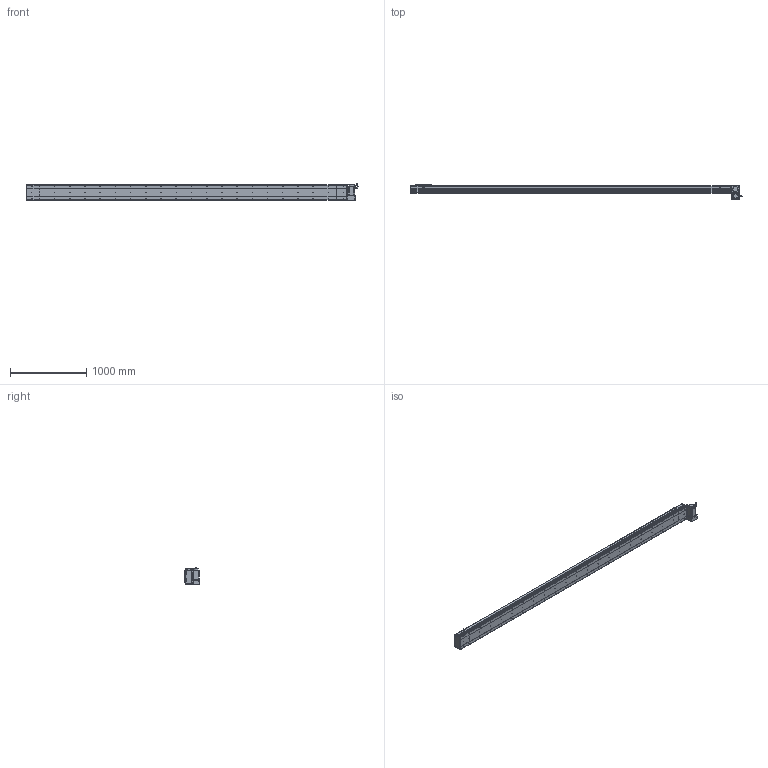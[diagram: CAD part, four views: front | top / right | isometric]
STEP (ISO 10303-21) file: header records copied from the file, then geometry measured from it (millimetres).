
FILE_DESCRIPTION (( 'STEP AP214' ), '1' );
FILE_NAME ('D20 CBH RU S3900.STEP', '2010-06-30T11:13:43', ( 'Conseil Régional Haute-Normandie' ), ( 'Conseil Régional Haute-Normandie' ), 'SwSTEP 2.0', 'SolidWorks 2010', '' );
FILE_SCHEMA (( 'AUTOMOTIVE_DESIGN' ));
Length unit declared in the file: millimetre
Products named in the file (31): Corp D20 S3900_Default; vis M5 L15_Default; Plaque De Serrage D20_Default; Plaque de Bout Tail D20_Default; Couvercle_Default; Corp Tail D20+100_Default; Tail D20+100_Default; Couvercle S3900_Default; Corp S3900_Default; D20 CBH RU S3900; Support moteur RU_Default; Plaque de Bout Head D20 RU_Default; Head RU_Default; Plaque De Serrage D20 RU_Default; Couvercle RU_Default; Corp Tail D20 RU_Default; Moteur motionking 90BLDC125A-640; Rondelle Cache D20 RU_Default; Cache Support Moteur RU_Default; codeur 90BLDC125-640; corps 90BLDC125A-640; avant 90BLDC125A-640; vis M5 L30_Default; Conecteur_Default; Conecteur2_Default; Chariot D20_Default; vis M5 L47_Default; ecrou_Default; Glissiere_Default; Support Chariot D20_Default
Assembly tree (66 placements, depth 4):
  D20 CBH RU S3900
    Head RU_Default
      Corp Tail D20 RU_Default
      Rondelle Cache D20 RU_Default  x3
      vis M5 L47_Default  x4
      vis M5 L30_Default  x4
      Moteur motionking 90BLDC125A-640
        Conecteur2_Default
        codeur 90BLDC125-640
        avant 90BLDC125A-640
        corps 90BLDC125A-640
        Conecteur_Default
      Cache Support Moteur RU_Default
      vis M5 L15_Default  x12
      ecrou_Default  x4
      Couvercle RU_Default
      Plaque de Bout Head D20 RU_Default
      Support moteur RU_Default
      Plaque De Serrage D20 RU_Default
    Tail D20+100_Default
      vis M5 L15_Default  x6
      Plaque De Serrage D20_Default
      Couvercle_Default
      Plaque de Bout Tail D20_Default
      Corp Tail D20+100_Default
    Corp D20 S3900_Default
      Corp S3900_Default
      Couvercle S3900_Default
    Chariot D20_Default
      vis M5 L15_Default  x8
      Chariot D20_Default
      Support Chariot D20_Default
      Glissiere_Default
Bounding box: 4364.45 x 209 x 229.7 mm (x, y, z)
Volume: 28926299.7 mm3; surface area: 5514980 mm2
Topology: 103 solids, 103 shells, 3862 faces, 9596 edges, 6238 vertices
Faces by surface type: plane 2129, bspline 806, cylinder 764, torus 91, cone 68, sphere 4
Entity records: 161974 total; most frequent: CARTESIAN_POINT 82734, ORIENTED_EDGE 15660, DIRECTION 12114, EDGE_CURVE 7830, VERTEX_POINT 5182, LINE 5014, VECTOR 5014, AXIS2_PLACEMENT_3D 3550
